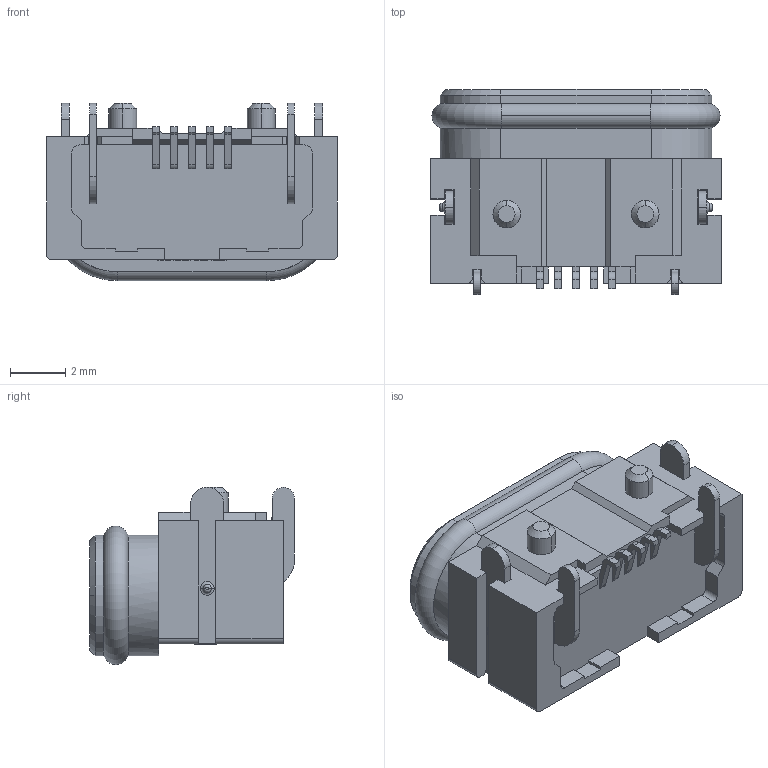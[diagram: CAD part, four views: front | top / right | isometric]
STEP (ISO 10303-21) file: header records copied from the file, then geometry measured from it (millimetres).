
FILE_DESCRIPTION (( 'STEP AP214' ), '1' );
FILE_NAME ('MO038-05P7.0LF 防水MICRO USB板上四脚插板SMT 带柱 7.0L IPX7.STEP', '2026-06-16T00:53:04', ( '' ), ( '' ), 'SwSTEP 2.0', 'SolidWorks 2024', '' );
FILE_SCHEMA (( 'AUTOMOTIVE_DESIGN' ));
Length unit declared in the file: millimetre
Products named in the file (1): MO038-05P7.0LF 防水MICRO USB板上四脚插板SMT 带柱 7.0L IPX7
Bounding box: 10.5 x 7.4 x 6.4 mm (x, y, z)
Volume: 252.7 mm3; surface area: 700.6 mm2
Topology: 1 solids, 5 shells, 858 faces, 2313 edges, 1506 vertices
Faces by surface type: plane 575, cylinder 179, bspline 51, torus 28, cone 17, sphere 8
Entity records: 29331 total; most frequent: CARTESIAN_POINT 7814, ORIENTED_EDGE 4622, DIRECTION 4215, EDGE_CURVE 2311, LINE 1759, VECTOR 1759, VERTEX_POINT 1506, AXIS2_PLACEMENT_3D 1228
